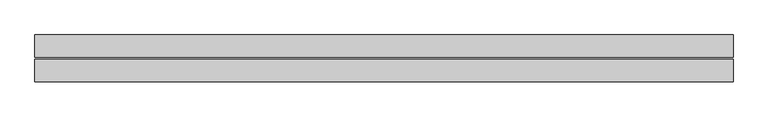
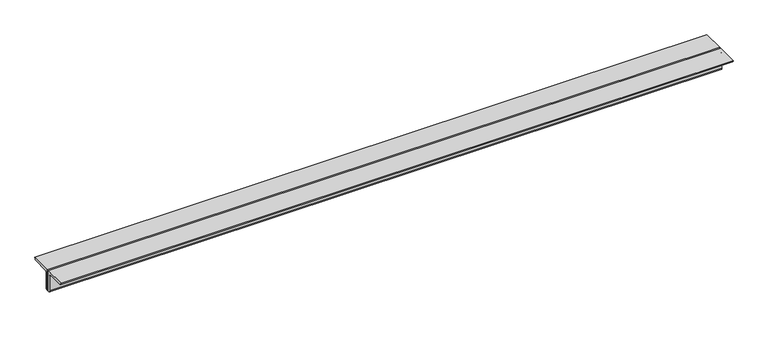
"""IFC4 building model written with IfcOpenShell, lengths in millimetres: beam geometry, Profilati doppi a L : DCED150x12."""

from ifc_helpers import new_model, si_unit, point, frame, frame_2d, origin, place, context, project, spatial, polyline, circle_curve, trimmed, segment, composite_curve, outline, extrude, source, transform, mapped, element, save


def beam_eb555228(model_context):
    return source(origin(), model_context, "Body", "SweptSolid", [
        extrude(outline(composite_curve([segment(polyline([(-6.0, 42.4), (-6.0, -107.6)]), True, "CONTINUOUS"), segment(trimmed(circle_curve(frame_2d((-6.0, -92.6)), 15.0), [point((-6.0, -107.6))], [point((-21.0, -92.6))], False, "CARTESIAN"), True, "CONTINUOUS"), segment(polyline([(-21.0, -92.6), (-21.0, 12.4)]), True, "CONTINUOUS"), segment(trimmed(circle_curve(frame_2d((-36.0, 12.4)), 15.0), [point((-21.0, 12.4))], [point((-36.0, 27.4))], True, "CARTESIAN"), True, "CONTINUOUS"), segment(polyline([(-36.0, 27.4), (-141.0, 27.4)]), True, "CONTINUOUS"), segment(trimmed(circle_curve(frame_2d((-141.0, 42.4)), 15.0), [point((-141.0, 27.4))], [point((-156.0, 42.4))], False, "CARTESIAN"), True, "CONTINUOUS"), segment(polyline([(-156.0, 42.4), (-6.0, 42.4)]), True, "CONTINUOUS")], self_intersect=False)), frame((-2491.0, 0.0, 0.0), z_axis=(1.0, 0.0, 0.0), x_axis=(0.0, 1.0, 0.0)), (0.0, 0.0, 1.0), 4638.0),
        extrude(outline(composite_curve([segment(polyline([(6.0, 42.4), (156.0, 42.4)]), True, "CONTINUOUS"), segment(trimmed(circle_curve(frame_2d((141.0, 42.4)), 15.0), [point((156.0, 42.4))], [point((141.0, 27.4))], False, "CARTESIAN"), True, "CONTINUOUS"), segment(polyline([(141.0, 27.4), (36.0, 27.4)]), True, "CONTINUOUS"), segment(trimmed(circle_curve(frame_2d((36.0, 12.4)), 15.0), [point((36.0, 27.4))], [point((21.0, 12.4))], True, "CARTESIAN"), True, "CONTINUOUS"), segment(polyline([(21.0, 12.4), (21.0, -92.6)]), True, "CONTINUOUS"), segment(trimmed(circle_curve(frame_2d((6.0, -92.6)), 15.0), [point((21.0, -92.6))], [point((6.0, -107.6))], False, "CARTESIAN"), True, "CONTINUOUS"), segment(polyline([(6.0, -107.6), (6.0, 42.4)]), True, "CONTINUOUS")], self_intersect=False)), frame((-2491.0, 0.0, 0.0), z_axis=(1.0, 0.0, 0.0), x_axis=(0.0, 1.0, 0.0)), (0.0, 0.0, 1.0), 4638.0),
    ])


if __name__ == "__main__":
    model = new_model("IFC4")
    model_context = context("Model", 3, world=origin())
    ifc_project = project(units=[si_unit("LENGTHUNIT", "METRE", prefix="MILLI")], contexts=[model_context])
    site = spatial("IfcSite", under=ifc_project)
    building = spatial("IfcBuilding", under=site)
    placement = place(None, origin())
    beam_shape = beam_eb555228(model_context)
    element("IfcBeam", 1, ObjectType="Profilati doppi a L : DCED150x12", at=placement, inside=building, context=model_context, shape_type="MappedRepresentation", body=[
        mapped(beam_shape, transform((0.0, 0.0, 0.0), x_axis=(1.0, 0.0, 0.0), y_axis=(0.0, 1.0, 0.0), z_axis=(0.0, 0.0, 1.0))),
    ])
    save(model, "model.ifc")
